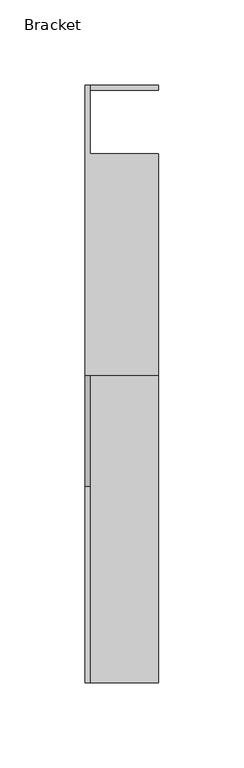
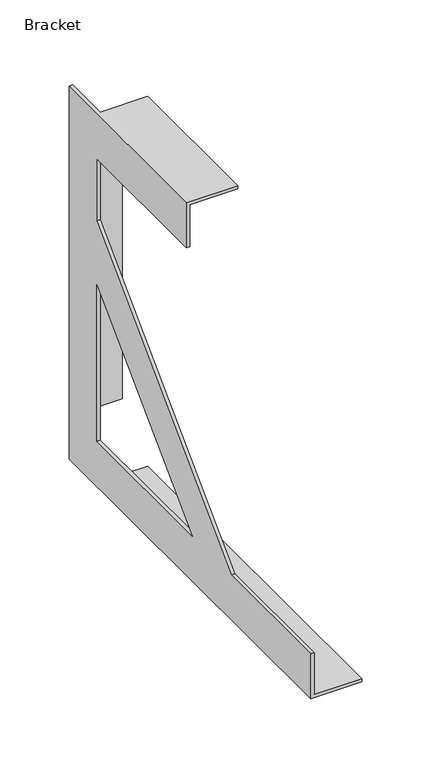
"""IFC4 building model written with IfcOpenShell, lengths in millimetres: furniture geometry, X_Vanity-Bracket-Duracube-Bench Support : Bracket."""

from ifc_helpers import new_model, si_unit, origin, place, context, project, spatial, faceted_brep, source, transform, mapped, element, save


def bracket_50fc7cdf(model_context):
    return source(origin(), model_context, "Body", "Brep", [
        faceted_brep([(21.5, 135.0, 3.0), (-18.5, 135.0, 3.0), (-18.5, -175.0, 3.0), (21.5, -175.0, 3.0), (21.5, 135.0, 0.0), (21.5, -175.0, 0.0), (-21.5, -175.0, 0.0), (-21.5, 175.0, 0.0), (-18.5, 175.0, 0.0), (-18.5, 135.0, 0.0), (-18.5, -175.0, 40.0), (-21.5, -175.0, 40.0), (-18.5, 5.0, 290.0), (-18.5, 135.0, 290.0), (-18.5, 135.0, 235.0), (-18.5, -60.0, 40.0), (-18.5, 175.0, 40.0), (-18.5, 172.0, 40.0), (-18.5, 172.0, 290.0), (-18.5, 175.0, 290.0), (-18.5, 175.0, 330.0), (-18.5, 135.0, 330.0), (-18.5, 135.0, 327.0), (-18.5, 5.0, 327.0), (-18.5, 135.0, 40.0), (-18.5, -3.4314575, 40.0), (-18.5, 135.0, 178.4314575), (-21.5, -60.0, 40.0), (-21.5, 135.0, 235.0), (-21.5, 135.0, 290.0), (-21.5, 5.0, 290.0), (-21.5, 5.0, 330.0), (-21.5, 175.0, 330.0), (-21.5, 135.0, 40.0), (-21.5, 135.0, 178.4314575), (-21.5, -3.4314575, 40.0), (21.5, 175.0, 290.0), (21.5, 175.0, 40.0), (21.5, 5.0, 330.0), (21.5, 135.0, 330.0), (21.5, 5.0, 327.0), (21.5, 172.0, 40.0), (21.5, 172.0, 290.0), (21.5, 135.0, 327.0)], [[[0, 1, 2, 3]], [[4, 5, 6, 7, 8, 9]], [[1, 0, 4, 9]], [[3, 2, 10, 11, 6, 5]], [[0, 3, 5, 4]], [[12, 13, 14, 15, 10, 2, 1, 9, 8, 16, 17, 18, 19, 20, 21, 22, 23], [24, 25, 26]], [[11, 27, 28, 29, 30, 31, 32, 7, 6], [33, 34, 35]], [[7, 32, 20, 19, 36, 37, 16, 8]], [[32, 31, 38, 39, 21, 20]], [[38, 31, 30, 12, 23, 40]], [[13, 12, 30, 29]], [[14, 13, 29, 28]], [[15, 14, 28, 27]], [[10, 15, 27, 11]], [[25, 24, 33, 35]], [[26, 25, 35, 34]], [[24, 26, 34, 33]], [[17, 41, 42, 18]], [[41, 17, 16, 37]], [[42, 41, 37, 36]], [[18, 42, 36, 19]], [[43, 40, 23, 22]], [[21, 39, 43, 22]], [[39, 38, 40, 43]]]),
    ])


if __name__ == "__main__":
    model = new_model("IFC4")
    model_context = context("Model", 3, world=origin())
    ifc_project = project(units=[si_unit("LENGTHUNIT", "METRE", prefix="MILLI")], contexts=[model_context])
    site = spatial("IfcSite", under=ifc_project)
    building = spatial("IfcBuilding", under=site)
    placement = place(None, origin())
    bracket_shape = bracket_50fc7cdf(model_context)
    element("IfcFurniture", 1, ObjectType="X_Vanity-Bracket-Duracube-Bench Support : Bracket", at=placement, inside=building, context=model_context, shape_type="MappedRepresentation", body=[
        mapped(bracket_shape, transform((0.0, 0.0, 0.0), x_axis=(1.0, 0.0, 0.0), y_axis=(0.0, 1.0, 0.0), z_axis=(0.0, 0.0, 1.0))),
    ])
    save(model, "model.ifc")
